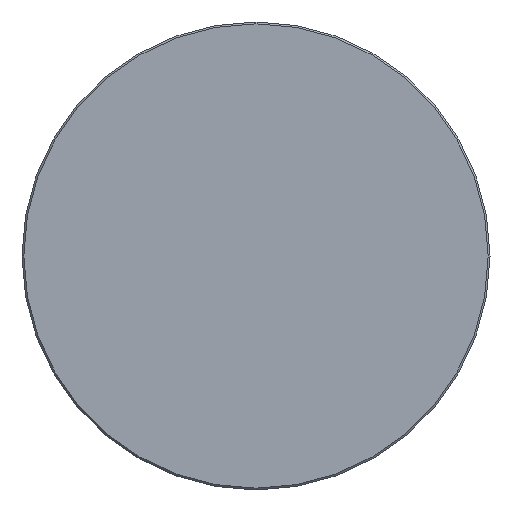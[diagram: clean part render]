
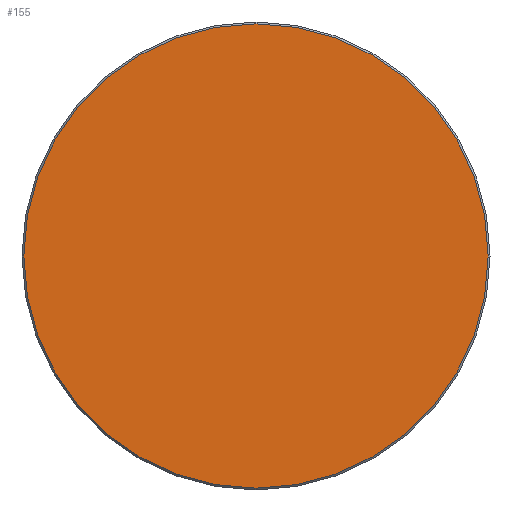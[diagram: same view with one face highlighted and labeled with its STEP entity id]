
A CAD part, top view. The second image highlights one B-rep face of the part: STEP entity #155.
In plain terms, the highlighted planar face has unit normal (0, 0, 1).
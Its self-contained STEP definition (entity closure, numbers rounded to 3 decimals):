
#155 = ADVANCED_FACE ( 'NONE', ( #3341 ), #3294, .T. ) ;
#722 = DIRECTION ( 'NONE',  ( 1., 0., 0. ) ) ;
#918 = AXIS2_PLACEMENT_3D ( 'NONE', #3447, #5885, #6542 ) ;
#1444 = CIRCLE ( 'NONE', #2103, 16.5 ) ;
#2103 = AXIS2_PLACEMENT_3D ( 'NONE', #2150, #4686, #7895 ) ;
#2150 = CARTESIAN_POINT ( 'NONE',  ( 0., 0., 0. ) ) ;
#2800 = EDGE_LOOP ( 'NONE', ( #3296, #6775 ) ) ;
#3294 = PLANE ( 'NONE',  #7240 ) ;
#3296 = ORIENTED_EDGE ( 'NONE', *, *, #7416, .F. ) ;
#3341 = FACE_OUTER_BOUND ( 'NONE', #2800, .T. ) ;
#3400 = CARTESIAN_POINT ( 'NONE',  ( -16.5, 0., 0. ) ) ;
#3447 = CARTESIAN_POINT ( 'NONE',  ( 0., 0., 0. ) ) ;
#4205 = VERTEX_POINT ( 'NONE', #6634 ) ;
#4493 = CIRCLE ( 'NONE', #918, 16.5 ) ;
#4686 = DIRECTION ( 'NONE',  ( 0., 0., -1. ) ) ;
#5247 = CARTESIAN_POINT ( 'NONE',  ( 0., 0., 0. ) ) ;
#5344 = VERTEX_POINT ( 'NONE', #3400 ) ;
#5885 = DIRECTION ( 'NONE',  ( 0., 0., -1. ) ) ;
#6542 = DIRECTION ( 'NONE',  ( -1., 0., 0. ) ) ;
#6634 = CARTESIAN_POINT ( 'NONE',  ( 16.5, 0., 0. ) ) ;
#6775 = ORIENTED_EDGE ( 'NONE', *, *, #7372, .F. ) ;
#7240 = AXIS2_PLACEMENT_3D ( 'NONE', #5247, #7786, #722 ) ;
#7372 = EDGE_CURVE ( 'NONE', #4205, #5344, #4493, .T. ) ;
#7416 = EDGE_CURVE ( 'NONE', #5344, #4205, #1444, .T. ) ;
#7786 = DIRECTION ( 'NONE',  ( 0., 0., 1. ) ) ;
#7895 = DIRECTION ( 'NONE',  ( -1., 0., 0. ) ) ;
